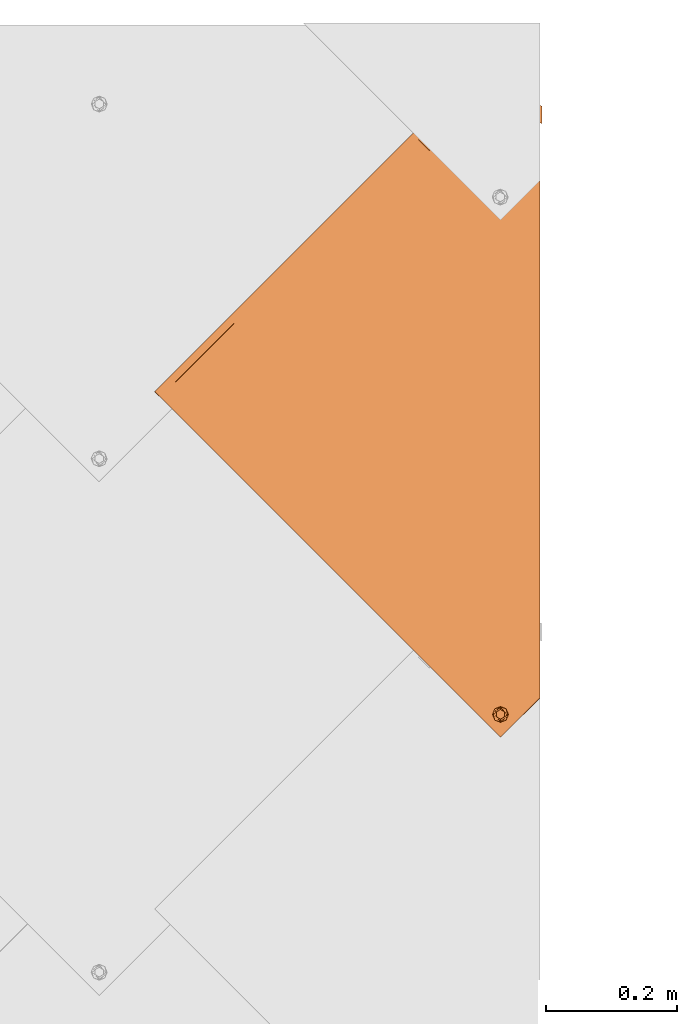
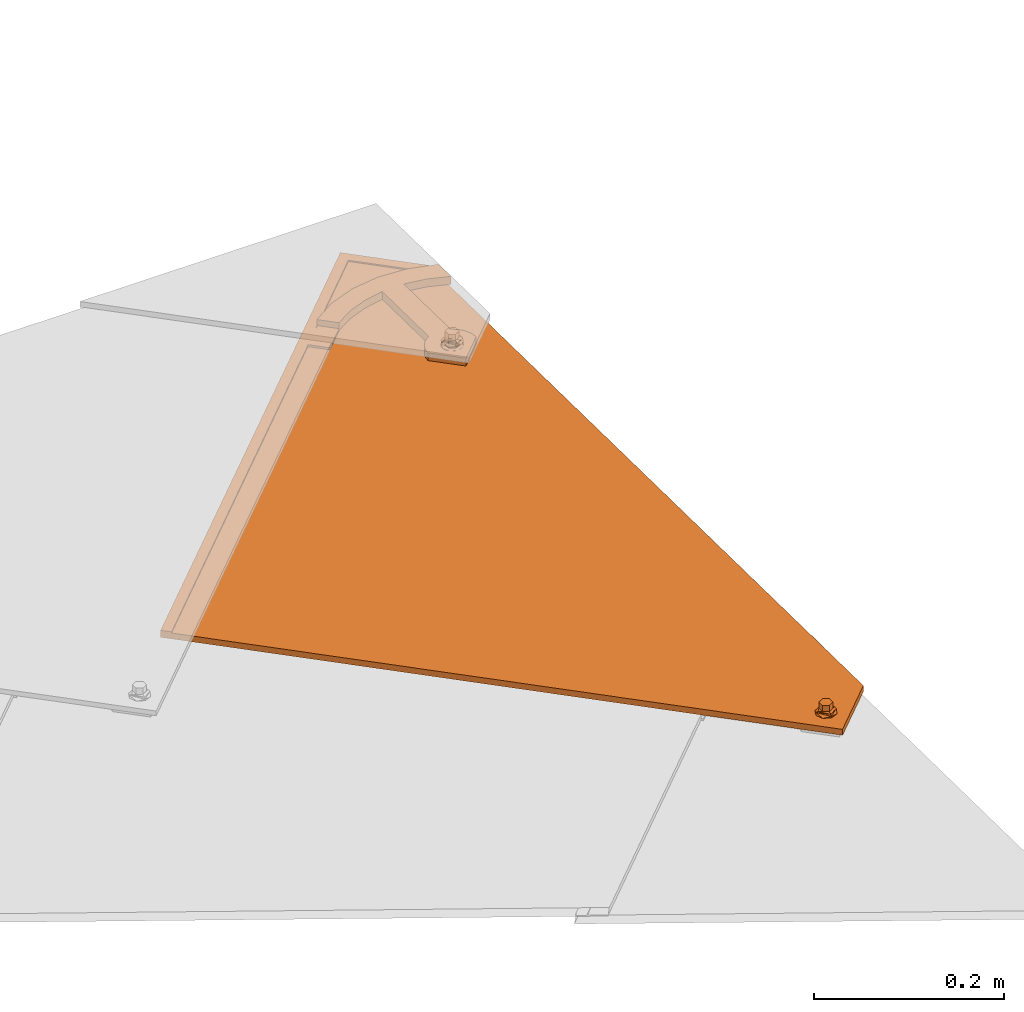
# One storey, part 87 of 151: 1 proxy.
"""IFC2X3 building model written with IfcOpenShell, lengths in millimetres."""

from ifc_helpers import new_model, entity, si_unit, converted_unit, derived_unit, direction, frame, origin, place, context, subcontext, project, spatial, faceted_brep, source, transform, mapped, material, material_list, type_object, type_shapes, element, save


model = new_model("IFC2X3")

# Units and contexts
model_context = context("Model", 3, precision=0.01, world=origin(), true_north=direction((6.12303176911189e-17, 1.0)))
body_context = subcontext(model_context, "Body", "Model", "MODEL_VIEW")
ifc_project = project(units=[si_unit("LENGTHUNIT", "METRE", prefix="MILLI"), si_unit("AREAUNIT", "SQUARE_METRE"), si_unit("VOLUMEUNIT", "CUBIC_METRE"), converted_unit("PLANEANGLEUNIT", "DEGREE", entity("IfcRatioMeasure", 0.0174532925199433), si_unit("PLANEANGLEUNIT", "RADIAN"), dimensions=[0, 0, 0, 0, 0, 0, 0]), si_unit("MASSUNIT", "GRAM", prefix="KILO"), derived_unit("MASSDENSITYUNIT", [(si_unit("MASSUNIT", "GRAM", prefix="KILO"), 1), (si_unit("LENGTHUNIT", "METRE"), -3)]), si_unit("TIMEUNIT", "SECOND"), si_unit("FREQUENCYUNIT", "HERTZ"), si_unit("THERMODYNAMICTEMPERATUREUNIT", "DEGREE_CELSIUS"), derived_unit("THERMALTRANSMITTANCEUNIT", [(si_unit("MASSUNIT", "GRAM", prefix="KILO"), 1), (si_unit("THERMODYNAMICTEMPERATUREUNIT", "KELVIN"), -1), (si_unit("TIMEUNIT", "SECOND"), -3)]), derived_unit("VOLUMETRICFLOWRATEUNIT", [(si_unit("LENGTHUNIT", "METRE"), 3), (si_unit("TIMEUNIT", "SECOND"), -1)]), si_unit("ELECTRICCURRENTUNIT", "AMPERE"), si_unit("ELECTRICVOLTAGEUNIT", "VOLT"), si_unit("POWERUNIT", "WATT"), si_unit("FORCEUNIT", "NEWTON", prefix="KILO"), si_unit("ILLUMINANCEUNIT", "LUX"), si_unit("LUMINOUSFLUXUNIT", "LUMEN"), si_unit("LUMINOUSINTENSITYUNIT", "CANDELA"), derived_unit("USERDEFINED", [(si_unit("MASSUNIT", "GRAM", prefix="KILO"), -1), (si_unit("LENGTHUNIT", "METRE"), -2), (si_unit("TIMEUNIT", "SECOND"), 3), (si_unit("LUMINOUSFLUXUNIT", "LUMEN"), 1)]), derived_unit("LINEARVELOCITYUNIT", [(si_unit("LENGTHUNIT", "METRE"), 1), (si_unit("TIMEUNIT", "SECOND"), -1)]), si_unit("PRESSUREUNIT", "PASCAL"), derived_unit("USERDEFINED", [(si_unit("LENGTHUNIT", "METRE"), -2), (si_unit("MASSUNIT", "GRAM", prefix="KILO"), 1), (si_unit("TIMEUNIT", "SECOND"), -2)])], contexts=[model_context])

# Site, building, storey
site_placement = place(None, origin())
site = spatial("IfcSite", under=ifc_project, at=site_placement, Name="Default", CompositionType="ELEMENT")
building_placement = place(site_placement, origin())
building = spatial("IfcBuilding", under=site, at=building_placement, CompositionType="ELEMENT")
storey_placement = place(building_placement, origin())
storey = spatial("IfcBuildingStorey", under=building, at=storey_placement, Name="Level 1", CompositionType="ELEMENT", Elevation=0.0)

# Proxy
ifc_material_1 = material(Name="Rubber - Sunstyle - Black")
ifc_material_2 = material(Name="Glass - Sunstyle - Tainted Black")
ifc_material_list_1 = material_list([ifc_material_1, ifc_material_2])
ifc_material_list_2 = material_list([ifc_material_1, ifc_material_2])
building_element_proxy_type = type_object("IfcBuildingElementProxyType", Name="Shingle Right - Black", PredefinedType="NOTDEFINED", material=ifc_material_list_2)
shared_shape = source(origin(), body_context, "Body", "Brep", [
    faceted_brep([(526.70519509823, 41.3127833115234, 3.87722628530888), (520.930992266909, 37.9795131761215, 3.9330502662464), (520.930992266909, 38.34782226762, 25.9249196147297), (526.70519509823, 41.6810924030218, 25.8690956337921), (520.930992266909, 31.3129729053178, 4.0446982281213), (520.930992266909, 31.6812819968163, 26.0365675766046), (526.70519509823, 27.979702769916, 4.1005222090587), (526.70519509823, 28.3480118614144, 26.092391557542), (532.47939792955, 31.3129729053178, 4.04469822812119), (532.47939792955, 31.6812819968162, 26.0365675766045), (532.47939792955, 37.9795131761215, 3.93305026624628), (532.47939792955, 38.3478222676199, 25.9249196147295), (518.101490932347, 26.4120542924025, 26.1248140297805), (526.70519509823, 22.8487830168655, 26.1844899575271), (514.537719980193, 35.0145521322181, 25.9807435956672), (518.101490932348, 43.6170499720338, 25.8366731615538), (526.70519509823, 47.1803212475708, 25.776997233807), (535.308899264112, 43.6170499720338, 25.8366731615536), (538.872670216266, 35.0145521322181, 25.9807435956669), (535.308899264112, 26.4120542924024, 26.1248140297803), (515.380950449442, 37.3096292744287, 28.2935855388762), (516.94872054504, 35.0855670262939, 30.2210682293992), (526.70519509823, 42.3986422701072, 30.8537686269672), (526.70519509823, 43.6391399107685, 30.2734219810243), (526.70519509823, 45.7966907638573, 29.2640469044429), (526.70519509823, 23.4048270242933, 27.4595479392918), (526.70519509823, 24.3484036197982, 29.6232523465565), (526.70519509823, 27.7977793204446, 31.0982967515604), (526.70519509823, 46.6672851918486, 27.0699596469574), (520.381949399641, 31.4479950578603, 31.0371647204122), (520.381949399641, 38.7484265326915, 30.9149006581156), (538.029439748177, 32.7982090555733, 28.3691406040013), (536.554075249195, 34.0111605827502, 30.1422000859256), (533.028440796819, 38.7484265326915, 30.9149006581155), (533.028440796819, 31.4479950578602, 31.0371647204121), (520.381949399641, 31.5820235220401, 39.0400528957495), (526.70519509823, 27.9318077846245, 39.1011849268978), (526.70519509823, 35.2322392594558, 38.9789208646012), (520.381949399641, 38.8824549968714, 38.9177888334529), (533.028440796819, 31.5820235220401, 39.0400528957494), (533.028440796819, 38.8824549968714, 38.9177888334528), (526.70519509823, 42.532670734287, 38.8566568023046), (526.70519509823, 34.6462430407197, 3.98887424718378)], [[[0, 1, 2, 3]], [[1, 4, 5, 2]], [[4, 6, 7, 5]], [[6, 8, 9, 7]], [[8, 10, 11, 9]], [[10, 0, 3, 11]], [[12, 7, 13]], [[7, 12, 5]], [[14, 5, 12]], [[5, 14, 2]], [[15, 2, 14]], [[3, 2, 15]], [[15, 16, 3]], [[16, 17, 3]], [[11, 3, 17]], [[11, 17, 18]], [[9, 11, 18]], [[18, 19, 9]], [[7, 9, 19]], [[19, 13, 7]], [[20, 14, 12]], [[21, 22, 23, 24]], [[24, 20, 21]], [[25, 20, 12]], [[26, 27, 21]], [[15, 14, 20]], [[12, 13, 25]], [[20, 28, 15]], [[28, 20, 24]], [[21, 27, 29]], [[21, 29, 30]], [[26, 21, 20]], [[20, 25, 26]], [[15, 28, 16]], [[21, 30, 22]], [[31, 18, 17]], [[28, 31, 17]], [[32, 27, 26]], [[26, 31, 32]], [[26, 25, 31]], [[25, 19, 31]], [[17, 16, 28]], [[31, 19, 18]], [[24, 31, 28]], [[33, 34, 32]], [[23, 22, 33]], [[24, 32, 31]], [[27, 32, 34]], [[32, 23, 33]], [[19, 25, 13]], [[32, 24, 23]], [[35, 36, 37]], [[37, 38, 35]], [[36, 39, 37]], [[40, 37, 39]], [[37, 40, 41]], [[37, 41, 38]], [[42, 6, 4]], [[4, 1, 42]], [[1, 0, 42]], [[42, 8, 6]], [[0, 10, 42]], [[8, 42, 10]], [[22, 30, 38, 41]], [[30, 29, 35, 38]], [[29, 27, 36, 35]], [[27, 34, 39, 36]], [[34, 33, 40, 39]], [[33, 22, 41, 40]]]),
    faceted_brep([(526.70519509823, 811.19100538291, 21.4210230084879), (526.70519509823, 815.690374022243, 21.3456697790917), (518.101490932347, 814.754276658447, 21.3613470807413), (535.308899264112, 814.754276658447, 21.3613470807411), (533.345423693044, 819.523574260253, 21.2814732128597), (538.872670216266, 823.356774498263, 21.2172766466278), (533.345423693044, 827.189974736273, 21.1530800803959), (535.308899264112, 831.959272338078, 21.0732062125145), (526.70519509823, 831.023174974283, 21.0888835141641), (526.70519509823, 835.522543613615, 21.0135302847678), (518.101490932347, 831.959272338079, 21.0732062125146), (520.064966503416, 827.189974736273, 21.1530800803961), (514.537719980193, 823.356774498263, 21.217276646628), (520.064966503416, 819.523574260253, 21.2814732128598), (520.064966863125, 826.922051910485, 5.15532344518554), (526.70519509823, 830.755251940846, 5.09112688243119), (520.064966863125, 819.255651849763, 5.2837165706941), (526.70519509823, 815.422451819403, 5.34791313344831), (533.345423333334, 819.255651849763, 5.28371657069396), (533.345423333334, 826.922051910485, 5.1553234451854), (518.101490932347, 814.486354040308, 5.36359044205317), (526.70519509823, 810.923082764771, 5.4232663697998), (514.537719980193, 823.088851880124, 5.21952000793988), (518.101490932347, 831.69134971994, 5.07544957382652), (526.70519509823, 835.254620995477, 5.01577364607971), (535.308899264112, 831.69134971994, 5.07544957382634), (538.872670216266, 823.088851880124, 5.21952000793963), (535.308899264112, 814.486354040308, 5.36359044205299)], [[[0, 1, 2]], [[1, 0, 3]], [[3, 4, 1]], [[4, 3, 5]], [[6, 4, 5]], [[5, 7, 6]], [[7, 8, 6]], [[8, 7, 9]], [[8, 9, 10]], [[10, 11, 8]], [[12, 11, 10]], [[2, 13, 12]], [[12, 13, 11]], [[13, 2, 1]], [[8, 11, 14, 15]], [[11, 13, 16, 14]], [[13, 1, 17, 16]], [[1, 4, 18, 17]], [[4, 6, 19, 18]], [[6, 8, 15, 19]], [[20, 17, 21]], [[17, 20, 16]], [[22, 16, 20]], [[14, 16, 22]], [[23, 14, 22]], [[15, 14, 23]], [[23, 24, 15]], [[24, 25, 15]], [[19, 15, 25]], [[19, 25, 26]], [[26, 18, 19]], [[26, 27, 18]], [[17, 18, 27]], [[27, 21, 17]], [[24, 23, 10, 9]], [[10, 23, 22, 12]], [[20, 21, 0, 2]], [[20, 2, 12, 22]], [[21, 27, 3, 0]], [[3, 27, 26, 5]], [[25, 24, 9, 7]], [[25, 7, 5, 26]]]),
    faceted_brep([(578.30986553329, 967.15023469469, 8.79467739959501), (586.794551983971, 975.634921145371, 8.65258001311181), (586.794551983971, 975.660038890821, 10.1523696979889), (578.30986553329, 967.17535244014, 10.294467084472), (517.891471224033, 1027.55168765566, 7.7831033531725), (8.48468645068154, 518.287740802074, 16.3120073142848), (0.0, 526.772427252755, 16.1699099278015), (517.891471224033, 1044.51868144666, 7.49894842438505), (517.891471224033, 1044.54379919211, 8.99873810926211), (0.0, 526.797544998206, 17.6696996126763), (8.4846864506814, 518.312858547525, 17.8117969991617), (517.891471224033, 1027.57680540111, 9.28289303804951)], [[[0, 1, 2, 3]], [[1, 0, 4, 5, 6, 7]], [[2, 1, 7, 8]], [[3, 2, 8, 9, 10, 11]], [[0, 3, 11, 4]], [[5, 10, 9, 6]], [[8, 7, 6, 9]], [[4, 11, 10, 5]]]),
    faceted_brep([(586.794551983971, 975.634921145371, 8.65258001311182), (517.891471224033, 1044.51868144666, 7.49894842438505), (523.812678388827, 834.561085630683, 11.0152157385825), (526.918506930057, 834.969918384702, 11.0083688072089), (530.024335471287, 834.561085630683, 11.0152157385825), (532.918506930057, 833.362448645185, 11.0352899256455), (535.403788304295, 831.455692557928, 11.0672233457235), (537.31081177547, 828.970759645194, 11.1088397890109), (538.509616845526, 826.076993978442, 11.1573031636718), (538.918506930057, 822.971600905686, 11.2093107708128), (538.509616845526, 819.86620783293, 11.2613183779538), (586.79455198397, 60.1087646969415, 23.9853651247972), (520.918506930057, 833.362448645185, 11.0352899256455), (518.433225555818, 831.455692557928, 11.0672233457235), (516.526202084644, 828.970759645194, 11.1088397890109), (515.327397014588, 826.076993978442, 11.1573031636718), (0.0, 526.772427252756, 16.1699099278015), (514.918506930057, 822.971600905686, 11.2093107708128), (515.327397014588, 819.86620783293, 11.2613183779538), (516.526202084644, 816.972442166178, 11.3097817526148), (518.433225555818, 814.487509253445, 11.3513981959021), (520.918506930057, 812.580753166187, 11.3833316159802), (523.812678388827, 811.382116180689, 11.4034058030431), (524.667140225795, 42.642731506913, 24.2778777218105), (522.737692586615, 41.8436401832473, 24.2912605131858), (521.080838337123, 40.572469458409, 24.3125494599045), (519.80948935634, 38.9158475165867, 24.3402937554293), (519.010285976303, 36.9866704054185, 24.37260267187), (518.737692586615, 34.9164083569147, 24.407274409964), (519.010285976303, 32.8461463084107, 24.441946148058), (526.794551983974, 0.125588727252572, 24.989934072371), (519.80948935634, 30.9169691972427, 24.4742550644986), (533.665895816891, 30.9169691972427, 24.4742550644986), (532.394546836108, 29.2603472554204, 24.5019993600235), (530.737692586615, 27.9891765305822, 24.5232883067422), (528.808244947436, 27.1900852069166, 24.5366710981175), (526.737692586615, 26.9175300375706, 24.5412357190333), (524.667140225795, 27.1900852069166, 24.5366710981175), (522.737692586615, 27.9891765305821, 24.5232883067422), (521.080838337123, 29.2603472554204, 24.5019993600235), (526.737692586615, 42.9152866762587, 24.2733131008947), (528.808244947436, 42.6427315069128, 24.2778777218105), (530.737692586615, 41.8436401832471, 24.2912605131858), (532.394546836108, 40.572469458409, 24.3125494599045), (533.665895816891, 38.9158475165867, 24.3402937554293), (534.465099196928, 36.9866704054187, 24.37260267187), (534.737692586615, 34.9164083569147, 24.407274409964), (534.465099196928, 32.8461463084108, 24.441946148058), (526.918506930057, 810.97328342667, 11.4102527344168), (537.31081177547, 816.972442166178, 11.3097817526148), (535.403788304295, 814.487509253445, 11.3513981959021), (532.918506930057, 812.580753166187, 11.3833316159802), (530.024335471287, 811.382116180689, 11.4034058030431), (0.0, 526.646838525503, 8.67096150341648), (519.80948935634, 38.790258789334, 16.8413453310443), (519.010285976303, 36.8610816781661, 16.8736542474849), (521.080838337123, 40.4468807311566, 16.8136010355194), (518.737692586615, 34.7908196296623, 16.9083259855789), (519.010285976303, 32.7205575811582, 16.9429977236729), (526.794551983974, 0.0, 17.4909856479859), (522.737692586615, 41.7180514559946, 16.7923120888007), (524.667140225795, 42.5171427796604, 16.7789292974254), (523.812678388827, 811.256527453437, 3.90445737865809), (520.918506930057, 812.455164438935, 3.88438319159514), (518.433225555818, 814.361920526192, 3.85244977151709), (516.526202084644, 816.846853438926, 3.81083332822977), (515.327397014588, 819.740619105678, 3.76236995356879), (514.918506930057, 822.846012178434, 3.71036234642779), (515.327397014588, 825.95140525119, 3.65835473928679), (517.891471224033, 1044.39309271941, 0.0), (516.526202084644, 828.845170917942, 3.60989136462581), (518.433225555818, 831.330103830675, 3.56827492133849), (520.918506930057, 833.236859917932, 3.53634150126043), (523.812678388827, 834.435496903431, 3.51626731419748), (586.794551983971, 975.509332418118, 1.15363158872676), (526.918506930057, 834.84432965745, 3.50942038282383), (530.024335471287, 834.435496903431, 3.51626731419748), (532.918506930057, 833.236859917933, 3.53634150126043), (535.403788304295, 831.330103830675, 3.56827492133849), (537.31081177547, 828.845170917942, 3.60989136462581), (538.509616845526, 825.95140525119, 3.65835473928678), (538.918506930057, 822.846012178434, 3.71036234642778), (538.509616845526, 819.740619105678, 3.76236995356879), (586.79455198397, 59.983175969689, 16.4864167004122), (526.737692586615, 42.7896979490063, 16.7743646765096), (528.808244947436, 42.5171427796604, 16.7789292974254), (530.737692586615, 41.7180514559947, 16.7923120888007), (532.394546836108, 40.4468807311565, 16.8136010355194), (533.665895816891, 30.7913804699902, 16.9753066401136), (534.465099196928, 32.7205575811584, 16.9429977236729), (534.737692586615, 34.7908196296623, 16.9083259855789), (534.465099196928, 36.8610816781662, 16.8736542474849), (533.665895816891, 38.7902587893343, 16.8413453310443), (526.918506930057, 810.847694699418, 3.91130431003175), (530.024335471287, 811.256527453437, 3.90445737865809), (532.918506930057, 812.455164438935, 3.88438319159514), (535.403788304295, 814.361920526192, 3.85244977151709), (537.31081177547, 816.846853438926, 3.81083332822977), (519.80948935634, 30.7913804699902, 16.9753066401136), (521.080838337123, 29.134758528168, 17.0030509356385), (522.737692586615, 27.8635878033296, 17.0243398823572), (524.667140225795, 27.0644964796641, 17.0377226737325), (526.737692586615, 26.7919413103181, 17.0422872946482), (528.808244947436, 27.0644964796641, 17.0377226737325), (530.737692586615, 27.8635878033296, 17.0243398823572), (532.394546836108, 29.1347585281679, 17.0030509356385)], [[[0, 1, 2]], [[0, 2, 3]], [[3, 4, 0]], [[4, 5, 0]], [[0, 5, 6]], [[6, 7, 0]], [[7, 8, 0]], [[8, 9, 0]], [[9, 10, 0]], [[0, 10, 11]], [[2, 1, 12]], [[13, 12, 1]], [[14, 13, 1]], [[14, 1, 15]], [[15, 1, 16]], [[16, 17, 15]], [[17, 16, 18]], [[19, 18, 16]], [[19, 16, 20]], [[21, 20, 16]], [[22, 21, 16]], [[23, 22, 16]], [[24, 23, 16]], [[16, 25, 24]], [[25, 16, 26]], [[26, 16, 27]], [[28, 27, 16]], [[28, 16, 29]], [[29, 16, 30]], [[30, 31, 29]], [[11, 32, 30]], [[30, 32, 33]], [[34, 30, 33]], [[34, 35, 30]], [[36, 30, 35]], [[30, 36, 37]], [[37, 38, 30]], [[38, 39, 30]], [[39, 31, 30]], [[23, 11, 22]], [[11, 23, 40]], [[11, 40, 41]], [[11, 41, 42]], [[42, 43, 11]], [[44, 11, 43]], [[44, 45, 11]], [[45, 46, 11]], [[47, 11, 46]], [[11, 47, 32]], [[22, 11, 48]], [[10, 49, 11]], [[49, 50, 11]], [[50, 51, 11]], [[51, 52, 11]], [[52, 48, 11]], [[53, 54, 55]], [[54, 53, 56]], [[53, 55, 57]], [[57, 58, 53]], [[53, 58, 59]], [[60, 56, 53]], [[61, 60, 53]], [[61, 53, 62]], [[62, 53, 63]], [[53, 64, 63]], [[64, 53, 65]], [[65, 53, 66]], [[66, 53, 67]], [[67, 53, 68]], [[53, 69, 68]], [[70, 68, 69]], [[71, 70, 69]], [[69, 72, 71]], [[73, 72, 69]], [[73, 69, 74]], [[75, 73, 74]], [[75, 74, 76]], [[77, 76, 74]], [[74, 78, 77]], [[79, 78, 74]], [[80, 79, 74]], [[80, 74, 81]], [[81, 74, 82]], [[82, 74, 83]], [[84, 61, 83]], [[83, 85, 84]], [[86, 85, 83]], [[83, 87, 86]], [[59, 88, 83]], [[83, 88, 89]], [[90, 83, 89]], [[90, 91, 83]], [[91, 92, 83]], [[87, 83, 92]], [[62, 83, 61]], [[93, 83, 62]], [[83, 93, 94]], [[94, 95, 83]], [[83, 95, 96]], [[96, 97, 83]], [[97, 82, 83]], [[59, 58, 98]], [[99, 59, 98]], [[99, 100, 59]], [[100, 101, 59]], [[102, 59, 101]], [[59, 102, 103]], [[59, 103, 104]], [[104, 105, 59]], [[105, 88, 59]], [[16, 1, 69, 53]], [[30, 16, 53, 59]], [[11, 30, 59, 83]], [[1, 0, 74, 69]], [[28, 57, 55, 27]], [[27, 55, 54, 26]], [[24, 25, 56, 60]], [[56, 25, 26, 54]], [[23, 24, 60, 61]], [[23, 61, 84, 40]], [[40, 84, 85, 41]], [[41, 85, 86, 42]], [[44, 43, 87, 92]], [[87, 43, 42, 86]], [[45, 44, 92, 91]], [[45, 91, 90, 46]], [[46, 90, 89, 47]], [[47, 89, 88, 32]], [[34, 33, 105, 104]], [[105, 33, 32, 88]], [[35, 34, 104, 103]], [[35, 103, 102, 36]], [[36, 102, 101, 37]], [[37, 101, 100, 38]], [[31, 39, 99, 98]], [[39, 38, 100, 99]], [[58, 29, 31, 98]], [[29, 58, 57, 28]], [[17, 67, 68, 15]], [[15, 68, 70, 14]], [[12, 13, 71, 72]], [[71, 13, 14, 70]], [[2, 12, 72, 73]], [[2, 73, 75, 3]], [[3, 75, 76, 4]], [[4, 76, 77, 5]], [[7, 6, 78, 79]], [[78, 6, 5, 77]], [[8, 7, 79, 80]], [[8, 80, 81, 9]], [[9, 81, 82, 10]], [[10, 82, 97, 49]], [[51, 50, 96, 95]], [[96, 50, 49, 97]], [[52, 51, 95, 94]], [[52, 94, 93, 48]], [[48, 93, 62, 22]], [[22, 62, 63, 21]], [[19, 20, 64, 65]], [[64, 20, 21, 63]], [[18, 19, 65, 66]], [[18, 66, 67, 17]], [[0, 11, 83, 74]]]),
    faceted_brep([(503.195324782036, 841.557074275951, 20.8994526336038), (517.914693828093, 832.008099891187, 21.0593741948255), (507.695869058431, 846.190079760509, 20.8218613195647), (516.007670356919, 829.523166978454, 21.1009906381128), (499.815755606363, 836.052923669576, 20.9916334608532), (514.808865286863, 826.629401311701, 21.1494540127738), (497.720422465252, 829.943523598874, 21.0939507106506), (514.399975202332, 823.524008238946, 21.2014616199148), (497.010547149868, 823.524008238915, 21.2014616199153), (514.808865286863, 820.41861516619, 21.2534692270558), (516.007670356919, 817.524849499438, 21.3019326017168), (517.914693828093, 815.039916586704, 21.3435490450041), (526.399975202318, 794.138700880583, 21.6935924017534), (520.399975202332, 813.133160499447, 21.3754824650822), (523.294146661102, 811.934523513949, 21.3955566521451), (526.399975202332, 811.52569075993, 21.4024035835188), (529.505803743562, 811.934523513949, 21.3955566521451), (532.399975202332, 813.133160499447, 21.3754824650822), (534.885256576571, 815.039916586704, 21.3435490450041), (555.789403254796, 823.524008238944, 21.2014616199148), (536.792280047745, 817.524849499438, 21.3019326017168), (537.991085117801, 820.41861516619, 21.2534692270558), (538.399975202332, 823.524008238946, 21.2014616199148), (555.079527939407, 829.943523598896, 21.0939507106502), (537.991085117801, 826.629401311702, 21.1494540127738), (552.984194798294, 836.052923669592, 20.9916334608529), (536.792280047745, 829.523166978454, 21.1009906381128), (549.604625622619, 841.557074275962, 20.8994526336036), (534.88525657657, 832.008099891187, 21.0593741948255), (545.104081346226, 846.190079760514, 20.8218613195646), (532.399975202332, 833.914855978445, 21.0274407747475), (539.69997520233, 849.728127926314, 20.7626078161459), (529.505803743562, 835.113492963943, 21.0073665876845), (526.399975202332, 835.522325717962, 21.0005196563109), (513.09997520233, 849.728127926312, 20.762607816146), (513.099975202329, 947.789128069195, 19.1203300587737), (539.699975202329, 948.373752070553, 19.1105390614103), (522.252457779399, 973.425526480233, 18.6909841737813), (556.520926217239, 971.308509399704, 18.7264389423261), (565.239246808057, 944.126992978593, 19.1816617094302), (589.568348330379, 961.999667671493, 18.8823388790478), (589.568348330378, 935.274464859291, 19.3299195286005), (488.310294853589, 968.25512753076, 18.7775754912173), (488.729131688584, 942.717602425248, 19.2052654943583), (456.227055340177, 956.030775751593, 18.9823029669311), (465.633151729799, 933.432284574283, 19.3607714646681), (444.534595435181, 920.223666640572, 19.5819829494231), (427.451419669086, 937.304447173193, 19.2959223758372), (520.399975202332, 833.914855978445, 21.0274407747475), (523.294146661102, 835.113492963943, 21.0073665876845), (526.399975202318, 793.971249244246, 11.6949945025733), (526.399975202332, 811.358239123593, 11.4038056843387), (529.505803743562, 811.767071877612, 11.396958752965), (523.294146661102, 811.767071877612, 11.396958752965), (532.399975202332, 812.96570886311, 11.3768845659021), (534.885256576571, 814.872464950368, 11.344951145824), (555.789403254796, 823.356556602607, 11.2028637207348), (520.399975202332, 812.96570886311, 11.3768845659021), (517.914693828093, 814.872464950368, 11.344951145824), (497.010547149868, 823.356556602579, 11.2028637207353), (516.007670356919, 817.357397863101, 11.3033347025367), (514.808865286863, 820.251163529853, 11.2548713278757), (514.399975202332, 823.356556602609, 11.2028637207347), (497.720422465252, 829.776071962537, 11.0953528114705), (514.808865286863, 826.461949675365, 11.1508561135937), (499.815755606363, 835.885472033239, 10.9930355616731), (516.007670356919, 829.355715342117, 11.1023927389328), (503.195324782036, 841.389622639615, 10.9008547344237), (517.914693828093, 831.84064825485, 11.0607762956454), (507.695869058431, 846.022628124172, 10.8232634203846), (520.399975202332, 833.747404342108, 11.0288428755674), (513.09997520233, 849.560676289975, 10.7640099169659), (523.294146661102, 834.946041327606, 11.0087686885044), (526.399975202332, 835.354874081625, 11.0019217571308), (539.69997520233, 849.560676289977, 10.7640099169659), (513.099975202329, 947.621676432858, 9.12173215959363), (539.69997520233, 948.206300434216, 9.11194116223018), (522.252457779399, 973.258074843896, 8.69238627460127), (488.310294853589, 968.087675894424, 8.77897759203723), (488.729131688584, 942.550150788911, 9.20666759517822), (456.227055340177, 955.863324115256, 8.98370506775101), (465.633151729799, 933.264832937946, 9.36217356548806), (444.533467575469, 920.055518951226, 9.58339670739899), (428.044288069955, 936.544210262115, 9.30725215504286), (421.793762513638, 931.184466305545, 9.39701453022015), (415.826529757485, 925.515365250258, 9.49195786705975), (418.207622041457, 893.733364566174, 10.0242272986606), (401.122816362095, 910.815774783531, 9.73813943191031), (427.451419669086, 937.136995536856, 9.29732447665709), (556.520926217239, 971.141057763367, 8.727841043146), (565.239246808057, 943.959541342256, 9.18306381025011), (589.568348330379, 961.832216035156, 8.88374097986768), (589.568348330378, 935.107013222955, 9.33132162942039), (529.505803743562, 834.946041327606, 11.0087686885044), (532.399975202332, 833.747404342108, 11.0288428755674), (545.104081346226, 846.022628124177, 10.8232634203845), (534.88525657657, 831.84064825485, 11.0607762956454), (549.604625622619, 841.389622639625, 10.9008547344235), (536.792280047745, 829.355715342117, 11.1023927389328), (552.984194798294, 835.885472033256, 10.9930355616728), (537.991085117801, 826.461949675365, 11.1508561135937), (555.079527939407, 829.77607196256, 11.0953528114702), (538.399975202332, 823.356556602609, 11.2028637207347), (537.991085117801, 820.251163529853, 11.2548713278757), (536.792280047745, 817.357397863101, 11.3033347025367), (415.826529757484, 925.557228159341, 11.9916073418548), (401.122816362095, 910.857637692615, 12.2377889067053), (418.207622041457, 893.775227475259, 12.5238767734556), (444.534595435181, 920.09807791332, 12.083034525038), (428.042008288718, 936.584216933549, 11.8069327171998), (421.793762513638, 931.226329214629, 11.8966640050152)], [[[0, 1, 2]], [[3, 1, 0]], [[4, 3, 0]], [[5, 3, 4]], [[4, 6, 5]], [[6, 7, 5]], [[7, 6, 8]], [[9, 7, 8]], [[10, 9, 8]], [[10, 8, 11]], [[8, 12, 11]], [[13, 11, 12]], [[13, 12, 14]], [[12, 15, 14]], [[15, 12, 16]], [[16, 12, 17]], [[18, 17, 12]], [[18, 12, 19]], [[19, 20, 18]], [[21, 20, 19]], [[22, 21, 19]], [[19, 23, 22]], [[24, 22, 23]], [[23, 25, 24]], [[25, 26, 24]], [[26, 25, 27]], [[28, 26, 27]], [[27, 29, 28]], [[30, 28, 29]], [[29, 31, 30]], [[30, 31, 32]], [[32, 31, 33]], [[31, 34, 33]], [[35, 34, 31]], [[35, 31, 36]], [[36, 37, 35]], [[36, 38, 37]], [[39, 38, 36]], [[38, 39, 40]], [[41, 40, 39]], [[37, 42, 35]], [[35, 42, 43]], [[43, 42, 44]], [[44, 45, 43]], [[44, 46, 45]], [[46, 44, 47]], [[48, 34, 2]], [[48, 49, 34]], [[34, 49, 33]], [[48, 2, 1]], [[50, 51, 52]], [[51, 50, 53]], [[50, 52, 54]], [[54, 55, 50]], [[50, 55, 56]], [[57, 53, 50]], [[58, 57, 50]], [[58, 50, 59]], [[59, 60, 58]], [[60, 59, 61]], [[61, 59, 62]], [[63, 62, 59]], [[64, 62, 63]], [[63, 65, 64]], [[64, 65, 66]], [[65, 67, 66]], [[68, 66, 67]], [[69, 68, 67]], [[69, 70, 68]], [[70, 69, 71]], [[71, 72, 70]], [[71, 73, 72]], [[74, 73, 71]], [[71, 75, 74]], [[75, 76, 74]], [[76, 75, 77]], [[77, 75, 78]], [[79, 78, 75]], [[80, 78, 79]], [[79, 81, 80]], [[81, 82, 80]], [[82, 83, 80]], [[84, 83, 82]], [[84, 82, 85]], [[82, 86, 85]], [[86, 87, 85]], [[83, 88, 80]], [[76, 77, 89]], [[89, 90, 76]], [[90, 89, 91]], [[91, 92, 90]], [[93, 73, 74]], [[74, 94, 93]], [[94, 74, 95]], [[95, 96, 94]], [[95, 97, 96]], [[96, 97, 98]], [[99, 98, 97]], [[99, 100, 98]], [[101, 100, 99]], [[102, 100, 101]], [[56, 102, 101]], [[103, 102, 56]], [[56, 55, 104]], [[103, 56, 104]], [[34, 35, 75, 71]], [[2, 34, 71, 69]], [[0, 2, 69, 67]], [[67, 65, 4, 0]], [[6, 4, 65, 63]], [[8, 6, 63, 59]], [[12, 8, 59, 50]], [[19, 12, 50, 56]], [[23, 19, 56, 101]], [[25, 23, 101, 99]], [[99, 97, 27, 25]], [[29, 27, 97, 95]], [[31, 29, 95, 74]], [[36, 31, 74, 76]], [[38, 40, 91, 89]], [[37, 38, 89, 77]], [[77, 78, 42, 37]], [[44, 42, 78, 80]], [[47, 44, 80, 88]], [[7, 62, 64, 5]], [[5, 64, 66, 3]], [[48, 1, 68, 70]], [[66, 68, 1, 3]], [[49, 48, 70, 72]], [[73, 33, 49, 72]], [[32, 93, 94, 30]], [[30, 94, 96, 28]], [[24, 26, 98, 100]], [[96, 98, 26, 28]], [[22, 24, 100, 102]], [[32, 33, 73, 93]], [[22, 102, 103, 21]], [[21, 103, 104, 20]], [[17, 18, 55, 54]], [[104, 55, 18, 20]], [[16, 17, 54, 52]], [[51, 15, 16, 52]], [[14, 53, 57, 13]], [[13, 57, 58, 11]], [[9, 10, 60, 61]], [[58, 60, 10, 11]], [[7, 9, 61, 62]], [[14, 15, 51, 53]], [[105, 106, 107, 108, 109, 110]], [[107, 106, 87, 86]], [[108, 107, 82]], [[86, 82, 107]], [[109, 83, 110]], [[110, 83, 84]], [[84, 85, 105, 110]], [[106, 105, 85, 87]], [[46, 47, 109]], [[109, 47, 88]], [[46, 109, 108]], [[83, 109, 88]], [[108, 81, 45, 46]], [[108, 82, 81]], [[79, 75, 35, 43]], [[81, 79, 43, 45]], [[76, 90, 39, 36]], [[92, 41, 39, 90]], [[40, 41, 92, 91]]]),
])
type_shapes(building_element_proxy_type, [shared_shape])
proxy_placement = place(storey_placement, frame((-16456.8567843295, 15725.6368899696, 0.129142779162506)))
element("IfcBuildingElementProxy", 1, at=proxy_placement, inside=storey, type_object=building_element_proxy_type, material=ifc_material_list_1, Name="Roofing_Panels_SunStyle_Tile_Shingle-Right:Shingle Right - Black", ObjectType="Roofing_Panels_SunStyle_Tile_Shingle-Right:Shingle Right - Black", context=body_context, shape_type="MappedRepresentation", body=[
    mapped(shared_shape, transform((0.0, 0.0, 0.0), scale=1.0)),
])

save(model, "model.ifc")
